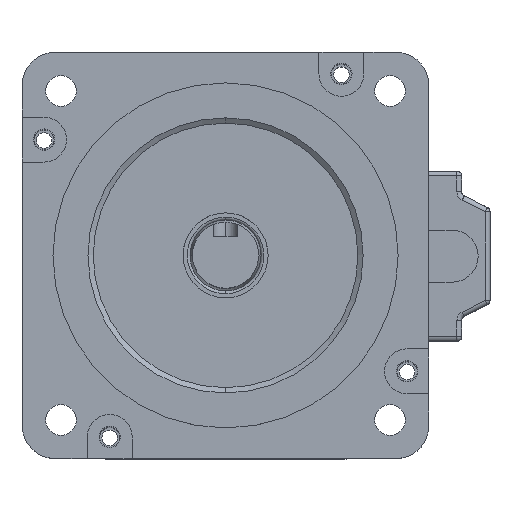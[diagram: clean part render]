
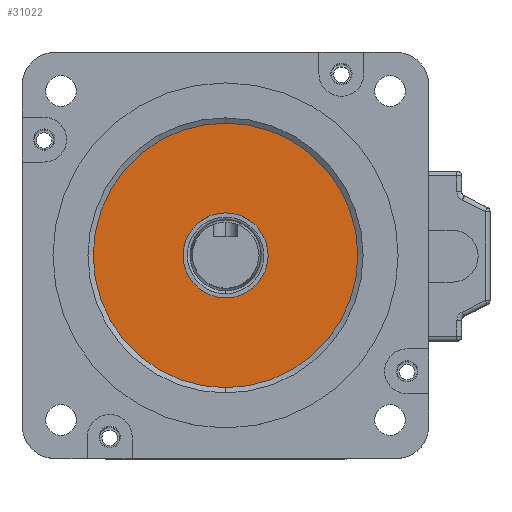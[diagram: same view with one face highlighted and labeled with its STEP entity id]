
A CAD part, top view. The second image highlights one B-rep face of the part: STEP entity #31022.
In plain terms, the highlighted planar face has unit normal (0, 0, 1) as drawn and (0, 0, -1) by its records, which use the part's own axes.
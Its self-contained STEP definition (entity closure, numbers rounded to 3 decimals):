
#1112 = CARTESIAN_POINT ( 'NONE',  ( -9., 0., -0.8 ) ) ;
#2771 = EDGE_LOOP ( 'NONE', ( #8761, #31891 ) ) ;
#2825 = CARTESIAN_POINT ( 'NONE',  ( 0., 0., -0.8 ) ) ;
#2927 = EDGE_CURVE ( 'NONE', #8527, #20413, #26443, .T. ) ;
#2992 = DIRECTION ( 'NONE',  ( 1., 0., 0. ) ) ;
#6889 = VERTEX_POINT ( 'NONE', #18803 ) ;
#6925 = DIRECTION ( 'NONE',  ( 0., 0., -1. ) ) ;
#7593 = PLANE ( 'NONE',  #33071 ) ;
#7746 = AXIS2_PLACEMENT_3D ( 'NONE', #7963, #18515, #15926 ) ;
#7873 = ORIENTED_EDGE ( 'NONE', *, *, #24029, .F. ) ;
#7963 = CARTESIAN_POINT ( 'NONE',  ( 0., 0., -0.8 ) ) ;
#8060 = CARTESIAN_POINT ( 'NONE',  ( -27.987, 0., -0.8 ) ) ;
#8527 = VERTEX_POINT ( 'NONE', #16059 ) ;
#8761 = ORIENTED_EDGE ( 'NONE', *, *, #9279, .F. ) ;
#9279 = EDGE_CURVE ( 'NONE', #13485, #6889, #19847, .T. ) ;
#9929 = AXIS2_PLACEMENT_3D ( 'NONE', #28233, #29248, #13552 ) ;
#13485 = VERTEX_POINT ( 'NONE', #8060 ) ;
#13552 = DIRECTION ( 'NONE',  ( 1., 0., 0. ) ) ;
#15926 = DIRECTION ( 'NONE',  ( -1., 0., 0. ) ) ;
#16059 = CARTESIAN_POINT ( 'NONE',  ( 9., 0., -0.8 ) ) ;
#16916 = EDGE_CURVE ( 'NONE', #6889, #13485, #19643, .T. ) ;
#17477 = DIRECTION ( 'NONE',  ( -1., 0., 0. ) ) ;
#18148 = CARTESIAN_POINT ( 'NONE',  ( 0., 27.987, -0.8 ) ) ;
#18483 = EDGE_LOOP ( 'NONE', ( #34065, #7873 ) ) ;
#18515 = DIRECTION ( 'NONE',  ( 0., 0., -1. ) ) ;
#18803 = CARTESIAN_POINT ( 'NONE',  ( 27.987, 0., -0.8 ) ) ;
#19643 = CIRCLE ( 'NONE', #24052, 27.987 ) ;
#19847 = CIRCLE ( 'NONE', #9929, 27.987 ) ;
#20413 = VERTEX_POINT ( 'NONE', #1112 ) ;
#20551 = CARTESIAN_POINT ( 'NONE',  ( 0., 0., -0.8 ) ) ;
#21564 = CIRCLE ( 'NONE', #7746, 9. ) ;
#21679 = DIRECTION ( 'NONE',  ( 0., 0., 1. ) ) ;
#24029 = EDGE_CURVE ( 'NONE', #20413, #8527, #21564, .T. ) ;
#24052 = AXIS2_PLACEMENT_3D ( 'NONE', #2825, #21679, #2992 ) ;
#26443 = CIRCLE ( 'NONE', #30304, 9. ) ;
#28233 = CARTESIAN_POINT ( 'NONE',  ( 0., 0., -0.8 ) ) ;
#29248 = DIRECTION ( 'NONE',  ( 0., 0., 1. ) ) ;
#29318 = DIRECTION ( 'NONE',  ( -1., 0., 0. ) ) ;
#30304 = AXIS2_PLACEMENT_3D ( 'NONE', #20551, #31073, #29318 ) ;
#30578 = FACE_OUTER_BOUND ( 'NONE', #2771, .T. ) ;
#31022 = ADVANCED_FACE ( 'NONE', ( #31263, #30578 ), #7593, .T. ) ;
#31073 = DIRECTION ( 'NONE',  ( 0., 0., -1. ) ) ;
#31263 = FACE_BOUND ( 'NONE', #18483, .T. ) ;
#31891 = ORIENTED_EDGE ( 'NONE', *, *, #16916, .F. ) ;
#33071 = AXIS2_PLACEMENT_3D ( 'NONE', #18148, #6925, #17477 ) ;
#34065 = ORIENTED_EDGE ( 'NONE', *, *, #2927, .F. ) ;
